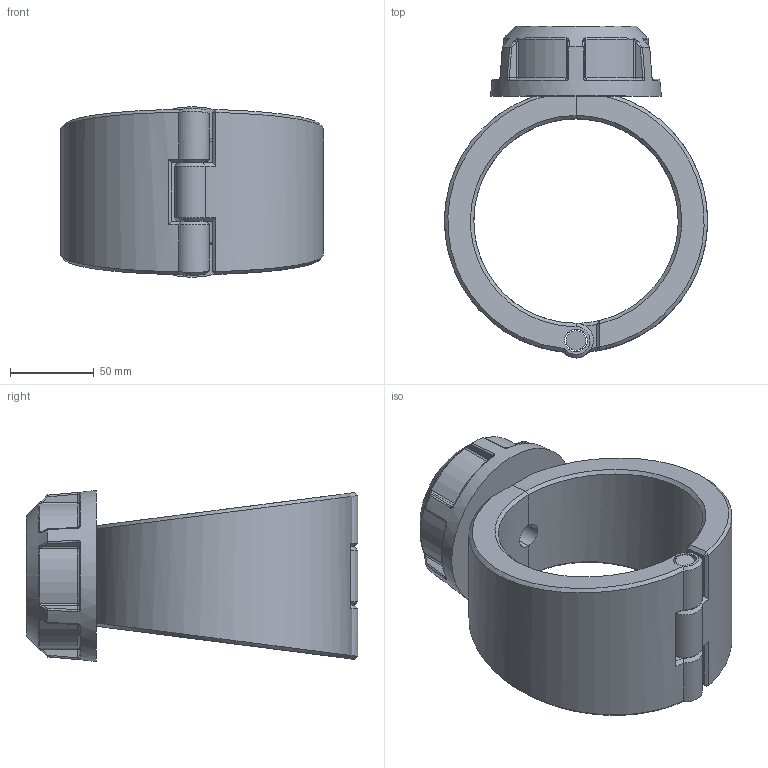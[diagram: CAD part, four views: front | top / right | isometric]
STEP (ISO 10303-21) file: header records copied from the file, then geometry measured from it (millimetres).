
FILE_DESCRIPTION(/* description */ ('Plassadle Threaded 122x1'''''),/* implementation_level */ '2;1');
FILE_NAME(/* name */ 'C:\Users\comp2\Dropbox\99-16-3568-Processing\Mechanical Fittings\16300\stp\163000122010.stp',/* time_stamp */ '2022-02-03T11:50:08+00:00',/* author */ ('comp2'),/* organization */ (''),/* preprocessor_version */ 'ST-DEVELOPER v17.2',/* originating_system */ 'Autodesk Inventor 2019',/* authorisation */ '');
FILE_SCHEMA (('AUTOMOTIVE_DESIGN { 1 0 10303 214 3 1 1 }'));
Length unit declared in the file: millimetre
Products named in the file (1): 163000122010
Bounding box: 156.98 x 198 x 102 mm (x, y, z)
Volume: 827672.4 mm3; surface area: 125274.9 mm2
Topology: 4 solids, 4 shells, 203 faces, 486 edges, 293 vertices
Faces by surface type: bspline 58, plane 53, cylinder 47, torus 18, cone 15, sphere 12
Full cylindrical faces by diameter (mm): 11.64 x1, 13.64 x3, 15.146 x1, 25.747 x1, 30.291 x1, 45.437 x1
Entity records: 8205 total; most frequent: CARTESIAN_POINT 3858, ORIENTED_EDGE 972, DIRECTION 781, EDGE_CURVE 486, AXIS2_PLACEMENT_3D 330, VERTEX_POINT 293, EDGE_LOOP 213, FACE_OUTER_BOUND 203
